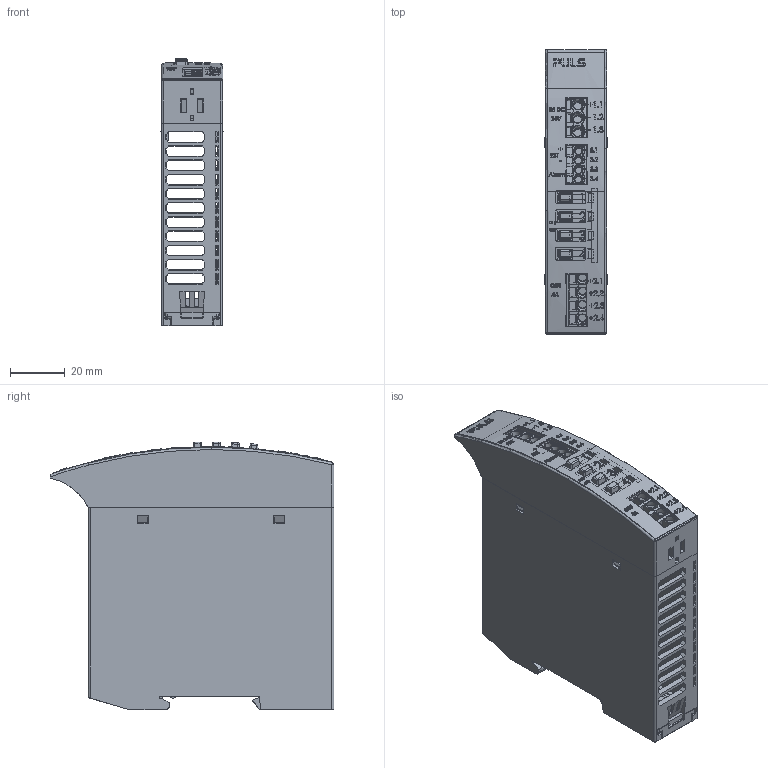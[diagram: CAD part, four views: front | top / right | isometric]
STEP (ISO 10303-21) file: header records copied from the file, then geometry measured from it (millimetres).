
FILE_DESCRIPTION (( 'STEP AP214' ), '1' );
FILE_NAME ('AN-466.00.STEP', '2024-05-24T10:18:25', ( '' ), ( '' ), 'SwSTEP 2.0', 'SolidWorks 2024', '' );
FILE_SCHEMA (( 'AUTOMOTIVE_DESIGN' ));
Length unit declared in the file: millimetre
Products named in the file (9): Input connector; slider_BRep_Config; AP-466.04; AN-466.00; KO-07000098-272 Push-In Connector Dinkle 0177-5104_Feat_Config; EW-466.02_BRep_Config; EL-466.02_EL-466.930.00; EW-466.01_Défaut; SIG.connector
Assembly tree (8 placements, depth 3):
  AN-466.00
    EW-466.01_Défaut
    EW-466.02_BRep_Config
    EL-466.02_EL-466.930.00
    AP-466.04
      Input connector
      SIG.connector
      KO-07000098-272 Push-In Connector Dinkle 0177-5104_Feat_Config
    slider_BRep_Config
Bounding box: 22.74 x 104.01 x 98.1 mm (x, y, z)
Volume: 51585.4 mm3; surface area: 62568.7 mm2
Topology: 7 solids, 7 shells, 4882 faces, 13084 edges, 8462 vertices
Faces by surface type: plane 2874, bspline 1080, cylinder 745, sphere 82, torus 60, cone 41
Entity records: 207584 total; most frequent: CARTESIAN_POINT 94035, ORIENTED_EDGE 26148, DIRECTION 19073, EDGE_CURVE 13074, VERTEX_POINT 8458, LINE 8181, VECTOR 8181, AXIS2_PLACEMENT_3D 5446
